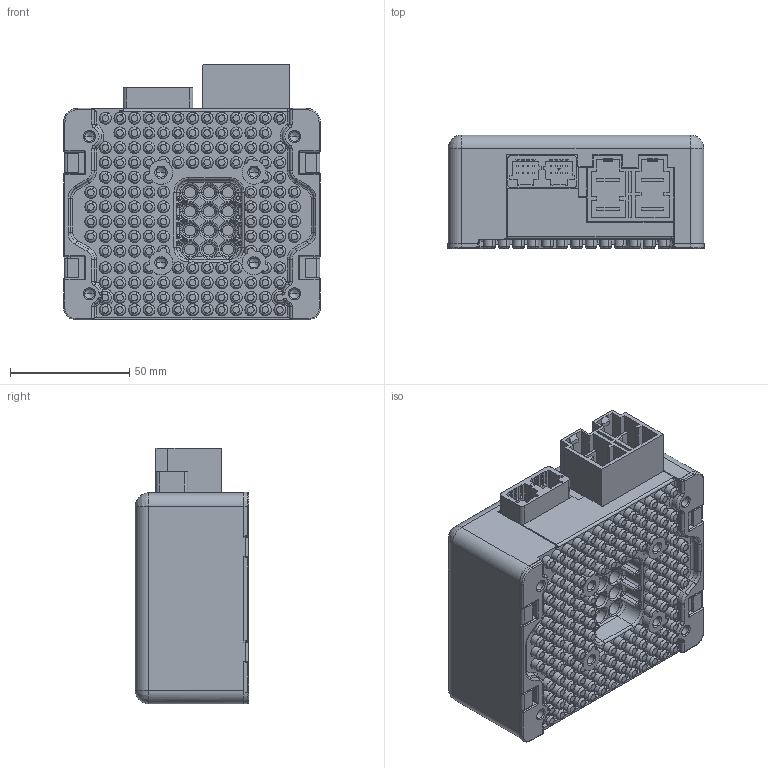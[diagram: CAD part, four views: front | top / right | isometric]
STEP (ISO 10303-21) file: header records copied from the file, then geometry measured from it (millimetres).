
FILE_DESCRIPTION(('CATIA V5 STEP Exchange','CAx-IF Rec.Pracs.--- Model Styling and Organization---1.5--- 2016-08-15','CAx-IF Rec.Pracs.---Supplemental Geometry---1.0---2011-11-01','CAx-IF Rec.Pracs.--- Composite Materials ---1.1---2010-07-15'),'2;1');
FILE_NAME('\\arj-synology-1\ARJ社内Project\市販用 C-EPS 小型\3Dデータ\EA10_ECU.stp','2026-03-12T07:02:42+00:00',('none'),('none'),'CATIA Version 5-6 Release 2023 SP5 HF3','CATIA V5 STEP AP214 v3','none');
FILE_SCHEMA(('AUTOMOTIVE_DESIGN { 1 0 10303 214 1 1 1 1 }'));
Products named in the file (1): EA10_ECU
Bounding box: 107.6 x 47.6 x 107.16 mm (x, y, z)
Volume: 418432.5 mm3; surface area: 62087.3 mm2
Topology: 1 solids, 1 shells, 1771 faces, 4152 edges, 2519 vertices
Faces by surface type: revolution 836, plane 605, cylinder 235, bspline 87, extrusion 8
Entity records: 62413 total; most frequent: CARTESIAN_POINT 26792, ORIENTED_EDGE 8226, DIRECTION 4592, EDGE_CURVE 4113, VERTEX_POINT 2519, B_SPLINE_CURVE_WITH_KNOTS 2019, EDGE_LOOP 1946, AXIS2_PLACEMENT_3D 1943
